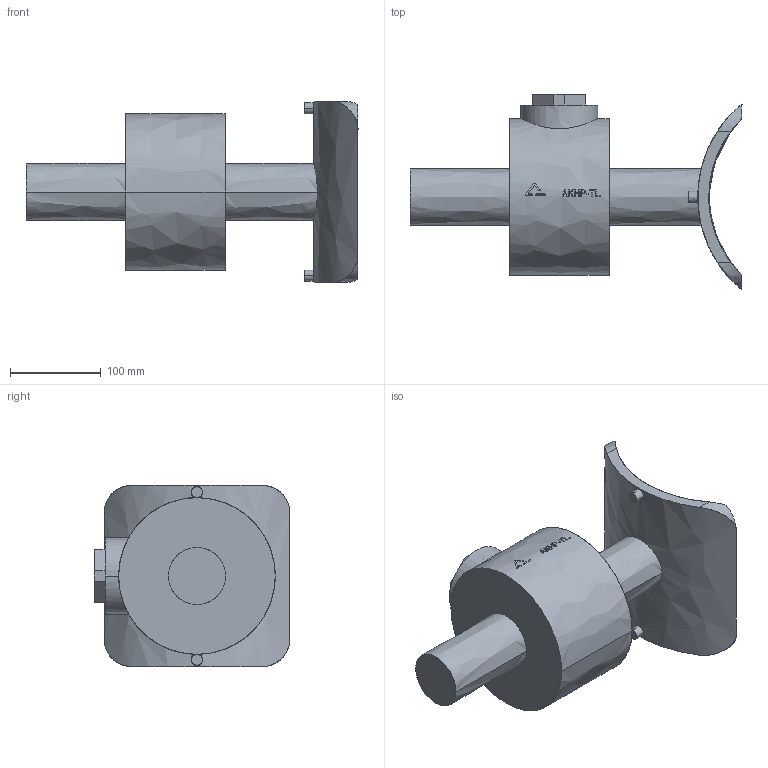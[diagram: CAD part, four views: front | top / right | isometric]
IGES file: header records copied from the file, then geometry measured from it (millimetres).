
Start section:  PTC IGES file: akhp-tl_d250-d315_d63.igs
Global section: file name: akhp-tl_d250-d315_d63.igs; native system: Pro/ENGINEER by Parametric Technology Corporation; preprocessor: 2006140; author: muellerc; organization: Unknown; date: 20060810.145717; units: millimetre
Bounding box: 366.83 x 216 x 200 mm (x, y, z)
Surface area: 247108.8 mm2 (no closed solid volume)
Topology: 0 solids, 0 shells, 144 faces, 789 edges, 802 vertices
Faces by surface type: bspline 144
